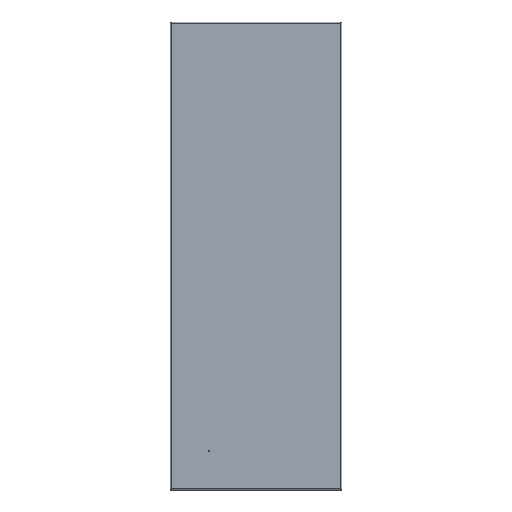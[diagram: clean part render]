
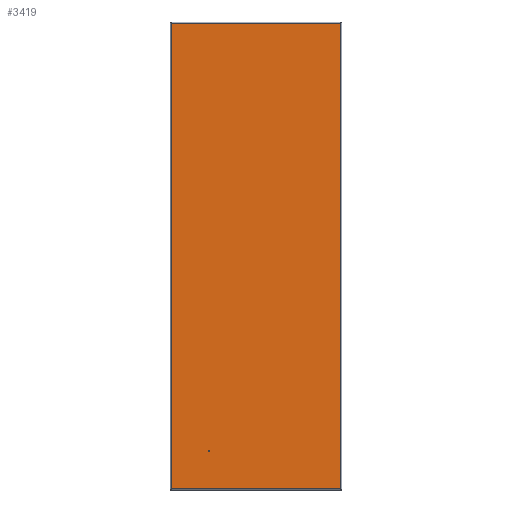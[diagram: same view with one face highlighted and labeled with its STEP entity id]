
A CAD part, front view. The second image highlights one B-rep face of the part: STEP entity #3419.
In plain terms, the highlighted planar face has unit normal (0, -1, 0).
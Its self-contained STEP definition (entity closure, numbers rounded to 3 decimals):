
#106=DIRECTION('',(0.,0.,1.));
#107=VECTOR('',#106,1194.);
#108=CARTESIAN_POINT('',(217.9,-15.,-597.));
#109=LINE('',#108,#107);
#178=DIRECTION('',(1.,0.,0.));
#179=VECTOR('',#178,435.8);
#180=CARTESIAN_POINT('',(-217.9,-15.,597.));
#181=LINE('',#180,#179);
#336=DIRECTION('',(-1.,0.,0.));
#337=VECTOR('',#336,435.8);
#338=CARTESIAN_POINT('',(217.9,-15.,-597.));
#339=LINE('',#338,#337);
#1176=DIRECTION('',(0.,0.,1.));
#1177=VECTOR('',#1176,1194.);
#1178=CARTESIAN_POINT('',(-217.9,-15.,-597.));
#1179=LINE('',#1178,#1177);
#1180=CARTESIAN_POINT('',(-120.4,-15.,-500.));
#1181=DIRECTION('',(0.,1.,0.));
#1182=DIRECTION('',(0.,0.,1.));
#1183=AXIS2_PLACEMENT_3D('',#1180,#1181,#1182);
#1185=CARTESIAN_POINT('',(-120.4,-15.,-500.));
#1186=DIRECTION('',(0.,1.,0.));
#1187=DIRECTION('',(0.,0.,-1.));
#1188=AXIS2_PLACEMENT_3D('',#1185,#1186,#1187);
#1286=CARTESIAN_POINT('',(217.9,-15.,597.));
#1287=VERTEX_POINT('',#1286);
#1290=CARTESIAN_POINT('',(-217.9,-15.,597.));
#1291=VERTEX_POINT('',#1290);
#1358=CARTESIAN_POINT('',(-217.9,-15.,-597.));
#1359=VERTEX_POINT('',#1358);
#1362=CARTESIAN_POINT('',(217.9,-15.,-597.));
#1363=VERTEX_POINT('',#1362);
#1414=CARTESIAN_POINT('',(-120.4,-15.,-499.5));
#1415=CARTESIAN_POINT('',(-120.4,-15.,-500.5));
#1416=VERTEX_POINT('',#1414);
#1417=VERTEX_POINT('',#1415);
#3403=CARTESIAN_POINT('',(-217.9,-15.,-598.));
#3404=DIRECTION('',(0.,-1.,0.));
#3405=DIRECTION('',(1.,0.,0.));
#3406=AXIS2_PLACEMENT_3D('',#3403,#3404,#3405);
#3407=PLANE('',#3406);
#3408=ORIENTED_EDGE('',*,*,#2023,.T.);
#3409=ORIENTED_EDGE('',*,*,#1962,.T.);
#3410=ORIENTED_EDGE('',*,*,#1808,.T.);
#3411=ORIENTED_EDGE('',*,*,#1714,.F.);
#3412=EDGE_LOOP('',(#3408,#3409,#3410,#3411));
#3413=FACE_OUTER_BOUND('',#3412,.F.);
#3414=ORIENTED_EDGE('',*,*,#3393,.F.);
#3416=ORIENTED_EDGE('',*,*,#3415,.F.);
#3417=EDGE_LOOP('',(#3414,#3416));
#3418=FACE_BOUND('',#3417,.F.);
#3419=ADVANCED_FACE('',(#3413,#3418),#3407,.T.);
#1184=CIRCLE('',#1183,0.5);
#1189=CIRCLE('',#1188,0.5);
#1714=EDGE_CURVE('',#1363,#1287,#109,.T.);
#1808=EDGE_CURVE('',#1291,#1287,#181,.T.);
#1962=EDGE_CURVE('',#1359,#1291,#1179,.T.);
#2023=EDGE_CURVE('',#1363,#1359,#339,.T.);
#3393=EDGE_CURVE('',#1416,#1417,#1184,.T.);
#3415=EDGE_CURVE('',#1417,#1416,#1189,.T.);
